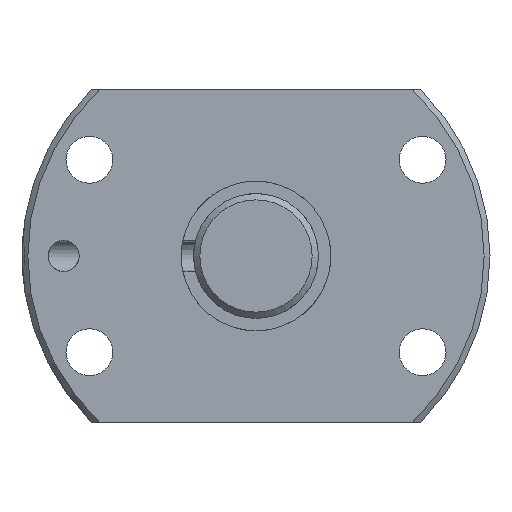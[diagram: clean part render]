
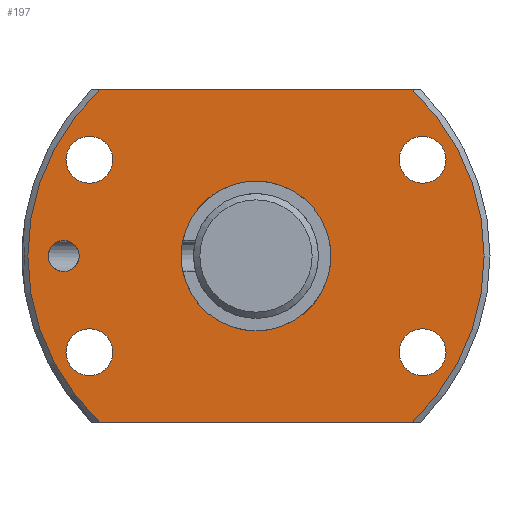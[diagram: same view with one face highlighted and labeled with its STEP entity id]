
A CAD part, left-side view. The second image highlights one B-rep face of the part: STEP entity #197.
In plain terms, the highlighted planar face has unit normal (-1, 0, 0).
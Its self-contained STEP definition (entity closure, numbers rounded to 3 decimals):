
#197 = ADVANCED_FACE( '', ( #288, #289, #290, #291, #292, #293, #294 ), #295, .T. );
#288 = FACE_BOUND( '', #412, .T. );
#289 = FACE_BOUND( '', #413, .T. );
#290 = FACE_OUTER_BOUND( '', #414, .T. );
#291 = FACE_BOUND( '', #415, .T. );
#292 = FACE_BOUND( '', #416, .T. );
#293 = FACE_BOUND( '', #417, .T. );
#294 = FACE_BOUND( '', #418, .T. );
#295 = PLANE( '', #419 );
#412 = EDGE_LOOP( '', ( #621 ) );
#413 = EDGE_LOOP( '', ( #622 ) );
#414 = EDGE_LOOP( '', ( #623, #624, #625, #626 ) );
#415 = EDGE_LOOP( '', ( #627 ) );
#416 = EDGE_LOOP( '', ( #628 ) );
#417 = EDGE_LOOP( '', ( #629 ) );
#418 = EDGE_LOOP( '', ( #630 ) );
#419 = AXIS2_PLACEMENT_3D( '', #631, #632, #633 );
#621 = ORIENTED_EDGE( '', *, *, #769, .T. );
#622 = ORIENTED_EDGE( '', *, *, #762, .T. );
#623 = ORIENTED_EDGE( '', *, *, #770, .F. );
#624 = ORIENTED_EDGE( '', *, *, #741, .F. );
#625 = ORIENTED_EDGE( '', *, *, #747, .F. );
#626 = ORIENTED_EDGE( '', *, *, #771, .F. );
#627 = ORIENTED_EDGE( '', *, *, #733, .T. );
#628 = ORIENTED_EDGE( '', *, *, #735, .T. );
#629 = ORIENTED_EDGE( '', *, *, #737, .T. );
#630 = ORIENTED_EDGE( '', *, *, #739, .T. );
#631 = CARTESIAN_POINT( '', ( 0., 21.938, 0. ) );
#632 = DIRECTION( '', ( -1., 0., 0. ) );
#633 = DIRECTION( '', ( 0., 0., 1. ) );
#733 = EDGE_CURVE( '', #814, #814, #815, .T. );
#735 = EDGE_CURVE( '', #818, #818, #819, .T. );
#737 = EDGE_CURVE( '', #822, #822, #823, .T. );
#739 = EDGE_CURVE( '', #826, #826, #827, .T. );
#741 = EDGE_CURVE( '', #828, #831, #832, .T. );
#747 = EDGE_CURVE( '', #841, #828, #843, .T. );
#762 = EDGE_CURVE( '', #869, #869, #870, .T. );
#769 = EDGE_CURVE( '', #880, #880, #881, .T. );
#770 = EDGE_CURVE( '', #831, #882, #883, .T. );
#771 = EDGE_CURVE( '', #882, #841, #884, .T. );
#814 = VERTEX_POINT( '', #984 );
#815 = CIRCLE( '', #985, 2.25 );
#818 = VERTEX_POINT( '', #988 );
#819 = CIRCLE( '', #989, 2.25 );
#822 = VERTEX_POINT( '', #992 );
#823 = CIRCLE( '', #993, 2.25 );
#826 = VERTEX_POINT( '', #996 );
#827 = CIRCLE( '', #997, 2.25 );
#828 = VERTEX_POINT( '', #998 );
#831 = VERTEX_POINT( '', #1004 );
#832 = CIRCLE( '', #1005, 21.938 );
#841 = VERTEX_POINT( '', #1021 );
#843 = LINE( '', #1026, #1027 );
#869 = VERTEX_POINT( '', #1113 );
#870 = CIRCLE( '', #1114, 1.5 );
#880 = VERTEX_POINT( '', #1129 );
#881 = CIRCLE( '', #1130, 7.2 );
#882 = VERTEX_POINT( '', #1131 );
#883 = LINE( '', #1132, #1133 );
#884 = CIRCLE( '', #1134, 21.938 );
#984 = CARTESIAN_POINT( '', ( 0., 16.021, -11.5 ) );
#985 = AXIS2_PLACEMENT_3D( '', #1201, #1202, #1203 );
#988 = CARTESIAN_POINT( '', ( 0., -16.021, -11.5 ) );
#989 = AXIS2_PLACEMENT_3D( '', #1207, #1208, #1209 );
#992 = CARTESIAN_POINT( '', ( 0., -16.021, 7. ) );
#993 = AXIS2_PLACEMENT_3D( '', #1213, #1214, #1215 );
#996 = CARTESIAN_POINT( '', ( 0., 16.021, 7. ) );
#997 = AXIS2_PLACEMENT_3D( '', #1219, #1220, #1221 );
#998 = CARTESIAN_POINT( '', ( 0., 15.008, -16. ) );
#1004 = CARTESIAN_POINT( '', ( 0., 15.008, 16. ) );
#1005 = AXIS2_PLACEMENT_3D( '', #1222, #1223, #1224 );
#1021 = CARTESIAN_POINT( '', ( 0., -15.008, -16. ) );
#1026 = CARTESIAN_POINT( '', ( 0., -22.6, -16. ) );
#1027 = VECTOR( '', #1229, 1000. );
#1113 = CARTESIAN_POINT( '', ( 0., 18.5, -1.5 ) );
#1114 = AXIS2_PLACEMENT_3D( '', #1252, #1253, #1254 );
#1129 = CARTESIAN_POINT( '', ( 0., 0., -7.2 ) );
#1130 = AXIS2_PLACEMENT_3D( '', #1266, #1267, #1268 );
#1131 = CARTESIAN_POINT( '', ( 0., -15.008, 16. ) );
#1132 = CARTESIAN_POINT( '', ( 0., 22.6, 16. ) );
#1133 = VECTOR( '', #1269, 1000. );
#1134 = AXIS2_PLACEMENT_3D( '', #1270, #1271, #1272 );
#1201 = CARTESIAN_POINT( '', ( 0., 16.021, -9.25 ) );
#1202 = DIRECTION( '', ( 1., 0., 0. ) );
#1203 = DIRECTION( '', ( 0., 0., -1. ) );
#1207 = CARTESIAN_POINT( '', ( 0., -16.021, -9.25 ) );
#1208 = DIRECTION( '', ( 1., 0., 0. ) );
#1209 = DIRECTION( '', ( 0., 0., -1. ) );
#1213 = CARTESIAN_POINT( '', ( 0., -16.021, 9.25 ) );
#1214 = DIRECTION( '', ( 1., 0., 0. ) );
#1215 = DIRECTION( '', ( 0., 0., -1. ) );
#1219 = CARTESIAN_POINT( '', ( 0., 16.021, 9.25 ) );
#1220 = DIRECTION( '', ( 1., 0., 0. ) );
#1221 = DIRECTION( '', ( 0., 0., -1. ) );
#1222 = CARTESIAN_POINT( '', ( 0., 0., 0. ) );
#1223 = DIRECTION( '', ( 1., 0., 0. ) );
#1224 = DIRECTION( '', ( 0., 0., -1. ) );
#1229 = DIRECTION( '', ( 0., 1., 0. ) );
#1252 = CARTESIAN_POINT( '', ( 0., 18.5, 0. ) );
#1253 = DIRECTION( '', ( 1., 0., 0. ) );
#1254 = DIRECTION( '', ( 0., 0., -1. ) );
#1266 = CARTESIAN_POINT( '', ( 0., 0., 0. ) );
#1267 = DIRECTION( '', ( 1., 0., 0. ) );
#1268 = DIRECTION( '', ( 0., 0., -1. ) );
#1269 = DIRECTION( '', ( 0., -1., 0. ) );
#1270 = CARTESIAN_POINT( '', ( 0., 0., 0. ) );
#1271 = DIRECTION( '', ( 1., 0., 0. ) );
#1272 = DIRECTION( '', ( 0., 0., -1. ) );
